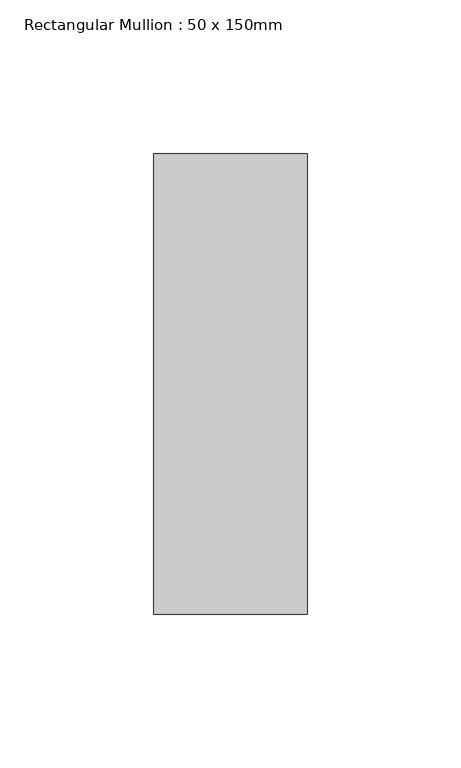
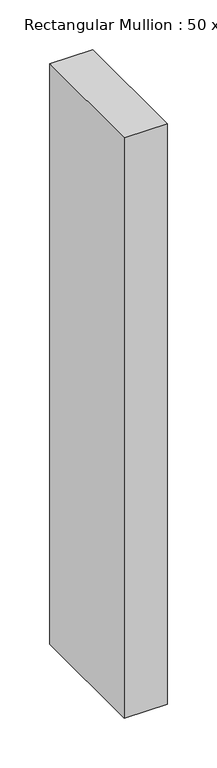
"""IFC4 building model written with IfcOpenShell, lengths in millimetres: member geometry, Rectangular Mullion : 50 x 150mm."""

from ifc_helpers import new_model, si_unit, frame, origin, place, context, project, spatial, polyline, outline, extrude, source, transform, mapped, element, save


def rectangular_mullion_50_x_150mm_a8401840(model_context):
    return source(origin(), model_context, "Body", "SweptSolid", [
        extrude(outline(polyline([(25.0, 75.0), (25.0, -75.0), (-25.0, -75.0), (-25.0, 75.0), (25.0, 75.0)])), frame((0.0, 0.0, -713.3333335), z_axis=(0.0, 0.0, 1.0), x_axis=(1.0, 0.0, 0.0)), (0.0, 0.0, 1.0), 713.3333335),
    ])


if __name__ == "__main__":
    model = new_model("IFC4")
    model_context = context("Model", 3, world=origin())
    ifc_project = project(units=[si_unit("LENGTHUNIT", "METRE", prefix="MILLI")], contexts=[model_context])
    site = spatial("IfcSite", under=ifc_project)
    building = spatial("IfcBuilding", under=site)
    placement = place(None, origin())
    rectangular_mullion_50_x_150mm_shape = rectangular_mullion_50_x_150mm_a8401840(model_context)
    element("IfcMember", 1, ObjectType="Rectangular Mullion : 50 x 150mm", at=placement, inside=building, context=model_context, shape_type="MappedRepresentation", body=[
        mapped(rectangular_mullion_50_x_150mm_shape, transform((0.0, 0.0, 0.0), x_axis=(1.0, 0.0, 0.0), y_axis=(0.0, 1.0, 0.0), z_axis=(0.0, 0.0, 1.0))),
    ])
    save(model, "model.ifc")
